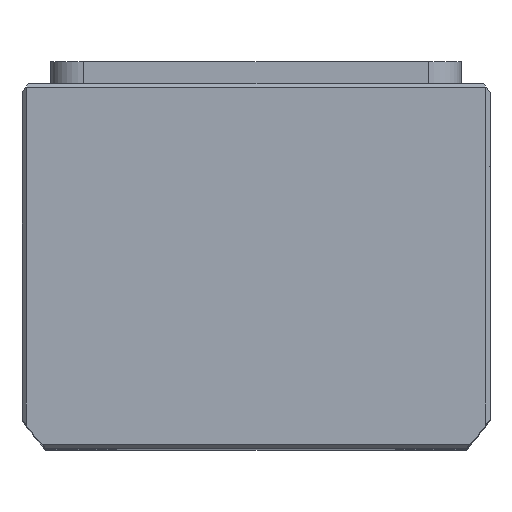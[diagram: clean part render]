
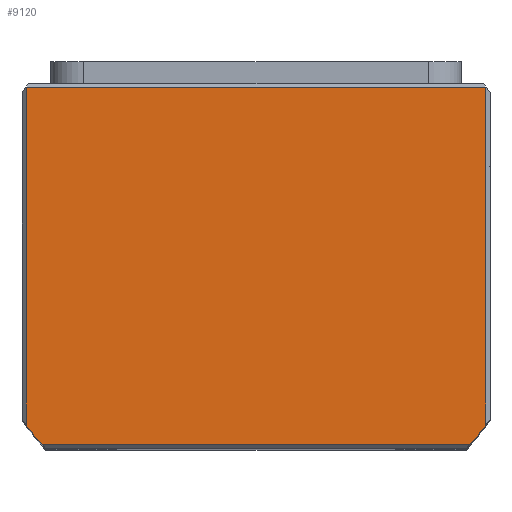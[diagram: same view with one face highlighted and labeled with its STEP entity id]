
A CAD part, top view. The second image highlights one B-rep face of the part: STEP entity #9120.
In plain terms, the highlighted planar face has unit normal (0, 0, 1) as drawn and (0, 0, -1) by its records, which use the part's own axes.
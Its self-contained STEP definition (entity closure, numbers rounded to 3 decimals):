
#4 = EDGE_CURVE ( 'NONE', #13632, #9634, #8507, .T. ) ;
#168 = ORIENTED_EDGE ( 'NONE', *, *, #4, .T. ) ;
#911 = CARTESIAN_POINT ( 'NONE',  ( 0., 0., 0. ) ) ;
#969 = AXIS2_PLACEMENT_3D ( 'NONE', #16429, #5402, #18284 ) ;
#2017 = CARTESIAN_POINT ( 'NONE',  ( 0., -2.5, 0. ) ) ;
#2921 = VERTEX_POINT ( 'NONE', #6855 ) ;
#3020 = LINE ( 'NONE', #4504, #7858 ) ;
#3172 = EDGE_CURVE ( 'NONE', #9634, #2921, #3020, .T. ) ;
#3628 = VECTOR ( 'NONE', #20419, 1000. ) ;
#3847 = DIRECTION ( 'NONE',  ( 1., 0., 0. ) ) ;
#4028 = CIRCLE ( 'NONE', #969, 69.5 ) ;
#4504 = CARTESIAN_POINT ( 'NONE',  ( -56., 0., 0. ) ) ;
#4560 = DIRECTION ( 'NONE',  ( 1., 0., 0. ) ) ;
#5402 = DIRECTION ( 'NONE',  ( 0., 0., 1. ) ) ;
#5727 = VECTOR ( 'NONE', #18937, 1000. ) ;
#5854 = ORIENTED_EDGE ( 'NONE', *, *, #17788, .T. ) ;
#6037 = VERTEX_POINT ( 'NONE', #15259 ) ;
#6215 = ORIENTED_EDGE ( 'NONE', *, *, #10295, .T. ) ;
#6343 = FACE_OUTER_BOUND ( 'NONE', #14929, .T. ) ;
#6855 = CARTESIAN_POINT ( 'NONE',  ( -56., 38.661, 0. ) ) ;
#7235 = CARTESIAN_POINT ( 'NONE',  ( 56., 0., 0. ) ) ;
#7474 = LINE ( 'NONE', #17006, #5727 ) ;
#7858 = VECTOR ( 'NONE', #17366, 1000. ) ;
#8507 = LINE ( 'NONE', #16388, #3628 ) ;
#9120 = ADVANCED_FACE ( 'NONE', ( #6343 ), #13717, .F. ) ;
#9397 = VERTEX_POINT ( 'NONE', #18203 ) ;
#9634 = VERTEX_POINT ( 'NONE', #11375 ) ;
#10295 = EDGE_CURVE ( 'NONE', #14268, #13632, #17644, .T. ) ;
#11028 = CARTESIAN_POINT ( 'NONE',  ( 56., -43.5, 0. ) ) ;
#11375 = CARTESIAN_POINT ( 'NONE',  ( -56., -43.5, 0. ) ) ;
#13091 = ORIENTED_EDGE ( 'NONE', *, *, #18225, .F. ) ;
#13301 = VECTOR ( 'NONE', #18257, 1000. ) ;
#13632 = VERTEX_POINT ( 'NONE', #11028 ) ;
#13717 = PLANE ( 'NONE',  #21342 ) ;
#14268 = VERTEX_POINT ( 'NONE', #15974 ) ;
#14834 = DIRECTION ( 'NONE',  ( 0., 0., 1. ) ) ;
#14929 = EDGE_LOOP ( 'NONE', ( #13091, #6215, #168, #22853, #16805, #5854 ) ) ;
#15259 = CARTESIAN_POINT ( 'NONE',  ( 52.098, 43.5, 0. ) ) ;
#15557 = DIRECTION ( 'NONE',  ( 0., 0., 1. ) ) ;
#15974 = CARTESIAN_POINT ( 'NONE',  ( 56., 38.661, 0. ) ) ;
#16388 = CARTESIAN_POINT ( 'NONE',  ( 0., -43.5, 0. ) ) ;
#16429 = CARTESIAN_POINT ( 'NONE',  ( 0., -2.5, 0. ) ) ;
#16805 = ORIENTED_EDGE ( 'NONE', *, *, #19938, .F. ) ;
#17006 = CARTESIAN_POINT ( 'NONE',  ( 0., 43.5, 0. ) ) ;
#17366 = DIRECTION ( 'NONE',  ( 0., 1., 0. ) ) ;
#17644 = LINE ( 'NONE', #7235, #13301 ) ;
#17788 = EDGE_CURVE ( 'NONE', #9397, #6037, #7474, .T. ) ;
#18203 = CARTESIAN_POINT ( 'NONE',  ( -52.098, 43.5, 0. ) ) ;
#18225 = EDGE_CURVE ( 'NONE', #14268, #6037, #4028, .T. ) ;
#18257 = DIRECTION ( 'NONE',  ( 0., -1., 0. ) ) ;
#18284 = DIRECTION ( 'NONE',  ( 1., 0., 0. ) ) ;
#18937 = DIRECTION ( 'NONE',  ( 1., 0., 0. ) ) ;
#19938 = EDGE_CURVE ( 'NONE', #9397, #2921, #22045, .T. ) ;
#20419 = DIRECTION ( 'NONE',  ( -1., 0., 0. ) ) ;
#20820 = AXIS2_PLACEMENT_3D ( 'NONE', #2017, #14834, #3847 ) ;
#21342 = AXIS2_PLACEMENT_3D ( 'NONE', #911, #15557, #4560 ) ;
#22045 = CIRCLE ( 'NONE', #20820, 69.5 ) ;
#22853 = ORIENTED_EDGE ( 'NONE', *, *, #3172, .T. ) ;
